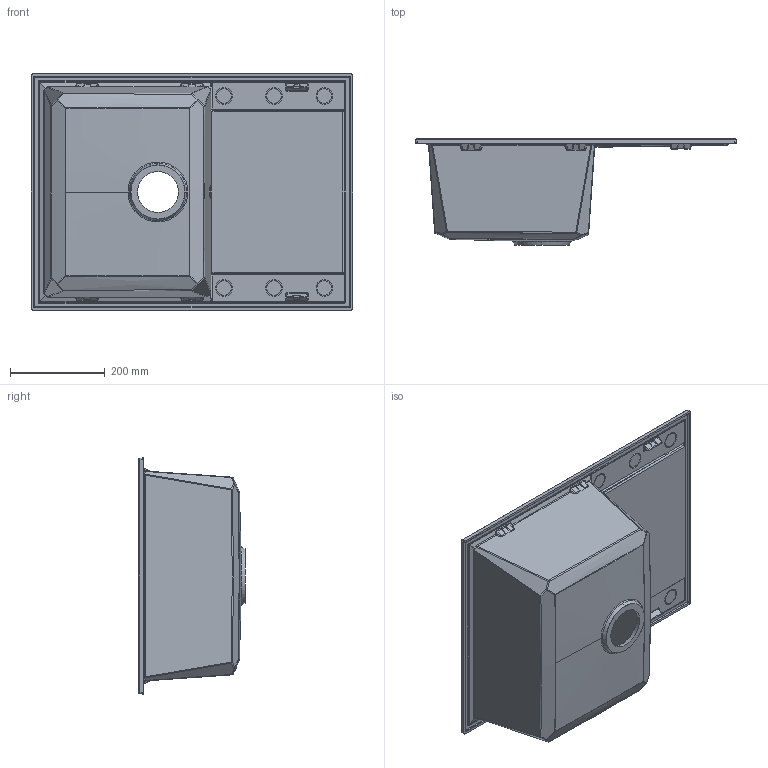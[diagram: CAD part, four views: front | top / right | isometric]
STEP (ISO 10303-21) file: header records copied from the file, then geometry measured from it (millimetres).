
FILE_DESCRIPTION (( 'STEP AP203' ), '1' );
FILE_NAME ('Easy 135.STEP', '2018-10-10T14:46:45', ( '' ), ( '' ), 'SwSTEP 2.0', 'SolidWorks 2013', '' );
FILE_SCHEMA (( 'CONFIG_CONTROL_DESIGN' ));
Length unit declared in the file: millimetre
Products named in the file (1): Easy 135
Bounding box: 680 x 225.74 x 500 mm (x, y, z)
Volume: 4900309.6 mm3; surface area: 1230732.1 mm2
Topology: 1 solids, 1 shells, 708 faces, 1662 edges, 928 vertices
Faces by surface type: bspline 358, cylinder 248, plane 92, cone 10
Entity records: 33106 total; most frequent: CARTESIAN_POINT 19542, ORIENTED_EDGE 3234, DIRECTION 2262, EDGE_CURVE 1617, VERTEX_POINT 928, AXIS2_PLACEMENT_3D 892, EDGE_LOOP 729, ADVANCED_FACE 708
